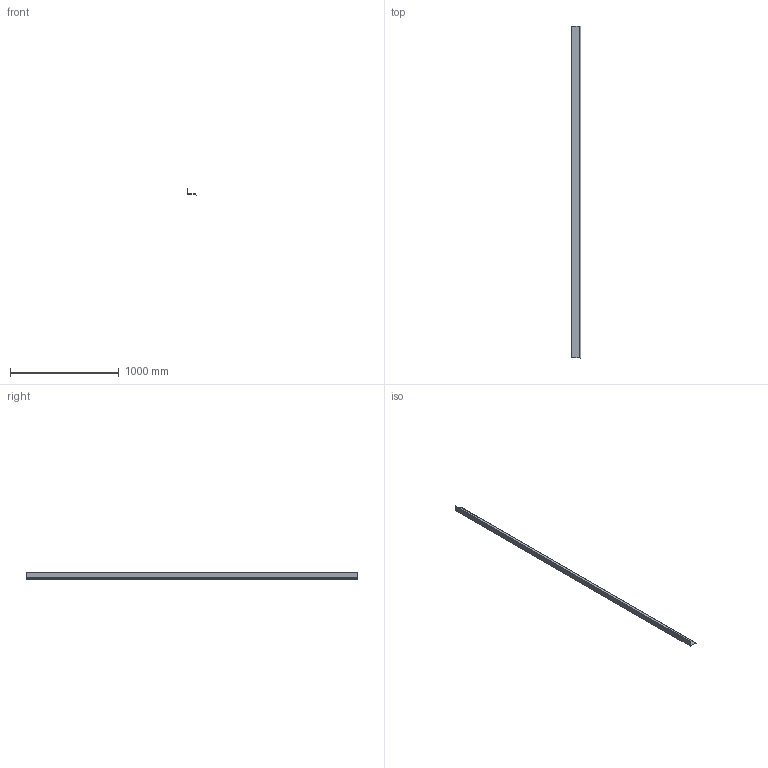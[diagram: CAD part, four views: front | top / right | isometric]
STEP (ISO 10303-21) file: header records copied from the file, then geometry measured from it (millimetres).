
FILE_DESCRIPTION(/* description */ (''),/* implementation_level */ '2;1');
FILE_NAME(/* name */ 'C:\Users\Utilisateur\Mac Metal\Site de communication - Documents\Ingénierie\Développement de produits\Board and Batten\Dessins\Moulures\M50H\M50H.stp',/* time_stamp */ '2022-06-29T16:24:24-04:00',/* author */ ('Utilisateur'),/* organization */ (''),/* preprocessor_version */ 'ST-DEVELOPER v18.1',/* originating_system */ 'Autodesk Inventor 2021',/* authorisation */ '');
FILE_SCHEMA (('AUTOMOTIVE_DESIGN { 1 0 10303 214 3 1 1 }'));
Length unit declared in the file: inch
Products named in the file (1): Solin
Bounding box: 87.03 x 3048 x 65.38 mm (x, y, z)
Volume: 299230 mm3; surface area: 977134 mm2
Topology: 1 solids, 1 shells, 18 faces, 48 edges, 32 vertices
Faces by surface type: plane 12, cylinder 6
Entity records: 607 total; most frequent: CARTESIAN_POINT 99, DIRECTION 98, ORIENTED_EDGE 96, EDGE_CURVE 48, LINE 36, VECTOR 36, VERTEX_POINT 32, AXIS2_PLACEMENT_3D 31
